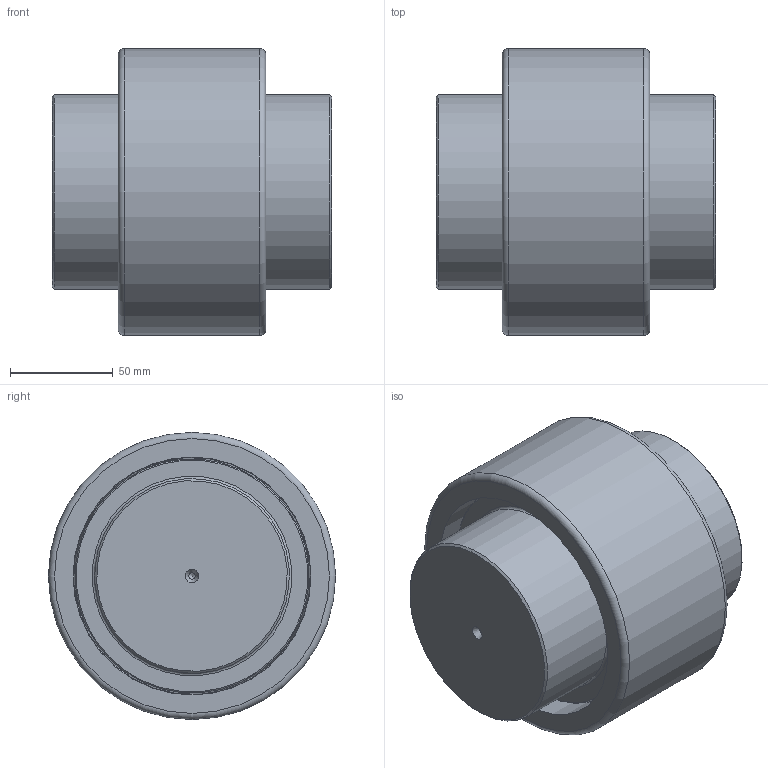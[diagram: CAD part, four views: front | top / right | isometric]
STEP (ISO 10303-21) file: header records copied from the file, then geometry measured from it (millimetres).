
FILE_DESCRIPTION(/* description */ (''),/* implementation_level */ '2;1');
FILE_NAME(/* name */ 'C:\Users\stagistacad\Desktop\00106502.stp',/* time_stamp */ '2018-06-18T16:35:57+02:00',/* author */ ('stagistacad'),/* organization */ (''),/* preprocessor_version */ 'ST-DEVELOPER v15.6',/* originating_system */ 'Autodesk Inventor 2015',/* authorisation */ '');
FILE_SCHEMA (('AUTOMOTIVE_DESIGN { 1 0 10303 214 3 1 1 }'));
Length unit declared in the file: millimetre
Products named in the file (3): 00106510; 00106520; 00106502
Bounding box: 136.18 x 140 x 140 mm (x, y, z)
Volume: 1473266.3 mm3; surface area: 151409.3 mm2
Topology: 3 solids, 3 shells, 52 faces, 100 edges, 58 vertices
Faces by surface type: cone 18, cylinder 12, plane 10, torus 10, bspline 2
Full cylindrical faces by diameter (mm): 3.15 x4, 95 x4, 107 x1, 116 x2, 140 x1
Entity records: 784 total; most frequent: DIRECTION 144, CARTESIAN_POINT 136, AXIS2_PLACEMENT_3D 72, ORIENTED_EDGE 70, EDGE_LOOP 63, EDGE_CURVE 35, CIRCLE 34, VERTEX_POINT 34
